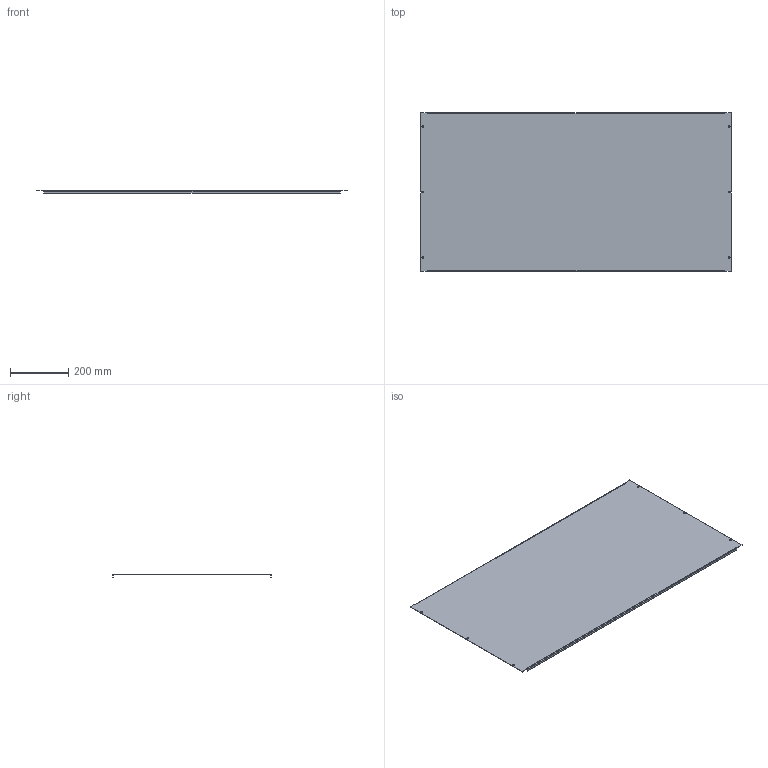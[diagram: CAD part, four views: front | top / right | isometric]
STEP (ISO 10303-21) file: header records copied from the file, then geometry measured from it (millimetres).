
FILE_DESCRIPTION(('STEP AP203'), '1');
FILE_NAME('Ïëàñòðîí ãëóõîé 550õ1200 ìì OptiBox M 419931 ÊÝÀÇ', '', ('UNSPECIFIED'), ('UNSPECIFIED'), 'C3D Converter', 'C3D Toolkit', '');
FILE_SCHEMA(('CONFIG_CONTROL_DESIGN'));
Length unit declared in the file: millimetre
Bounding box: 1072 x 547 x 10 mm (x, y, z)
Volume: 842179.1 mm3; surface area: 1207890.5 mm2
Topology: 1 solids, 1 shells, 40 faces, 98 edges, 60 vertices
Faces by surface type: plane 30, cylinder 10
Full cylindrical faces by diameter (mm): 6.3 x6
Entity records: 1188 total; most frequent: DIRECTION 194, CARTESIAN_POINT 193, ORIENTED_EDGE 184, EDGE_CURVE 92, LINE 72, VECTOR 72, AXIS2_PLACEMENT_3D 61, VERTEX_POINT 60
